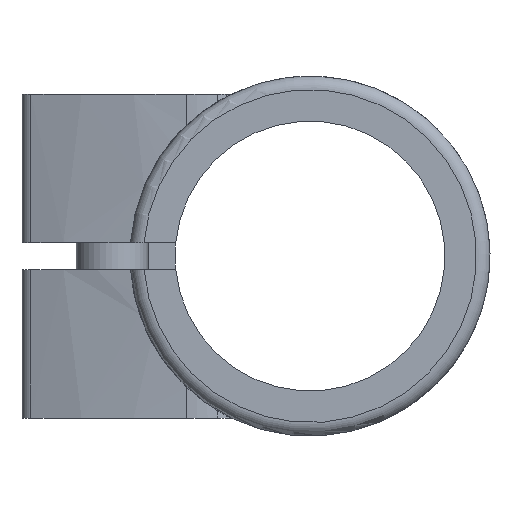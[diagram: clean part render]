
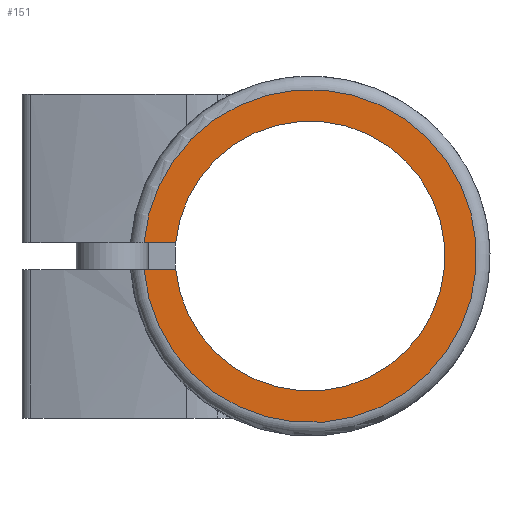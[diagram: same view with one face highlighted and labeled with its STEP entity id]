
A CAD part, left-side view. The second image highlights one B-rep face of the part: STEP entity #151.
In plain terms, the highlighted planar face has unit normal (-1, 0, 0).
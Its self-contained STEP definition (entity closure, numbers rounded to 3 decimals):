
#151 = ADVANCED_FACE( '', ( #411 ), #412, .F. );
#411 = FACE_OUTER_BOUND( '', #767, .T. );
#412 = PLANE( '', #768 );
#767 = EDGE_LOOP( '', ( #1644, #1645, #1646, #1647 ) );
#768 = AXIS2_PLACEMENT_3D( '', #1648, #1649, #1650 );
#1644 = ORIENTED_EDGE( '', *, *, #2591, .F. );
#1645 = ORIENTED_EDGE( '', *, *, #2546, .F. );
#1646 = ORIENTED_EDGE( '', *, *, #2593, .F. );
#1647 = ORIENTED_EDGE( '', *, *, #2556, .F. );
#1648 = CARTESIAN_POINT( '', ( 0., 0., 0. ) );
#1649 = DIRECTION( '', ( 1., 0., 0. ) );
#1650 = DIRECTION( '', ( 0., 0., -1. ) );
#2546 = EDGE_CURVE( '', #3180, #3181, #3182, .T. );
#2556 = EDGE_CURVE( '', #3195, #3197, #3198, .T. );
#2591 = EDGE_CURVE( '', #3181, #3195, #3260, .F. );
#2593 = EDGE_CURVE( '', #3197, #3180, #3262, .T. );
#3180 = VERTEX_POINT( '', #4335 );
#3181 = VERTEX_POINT( '', #4336 );
#3182 = LINE( '', #4337, #4338 );
#3195 = VERTEX_POINT( '', #4368 );
#3197 = VERTEX_POINT( '', #4371 );
#3198 = LINE( '', #4372, #4373 );
#3260 = CIRCLE( '', #4577, 15. );
#3262 = CIRCLE( '', #4579, 18.5 );
#4335 = CARTESIAN_POINT( '', ( 0., 18.439, -1.5 ) );
#4336 = CARTESIAN_POINT( '', ( 0., 14.925, -1.5 ) );
#4337 = CARTESIAN_POINT( '', ( 0., 0., -1.5 ) );
#4338 = VECTOR( '', #5280, 1000. );
#4368 = CARTESIAN_POINT( '', ( 0., 14.925, 1.5 ) );
#4371 = CARTESIAN_POINT( '', ( 0., 18.439, 1.5 ) );
#4372 = CARTESIAN_POINT( '', ( 0., 0., 1.5 ) );
#4373 = VECTOR( '', #5295, 1000. );
#4577 = AXIS2_PLACEMENT_3D( '', #5343, #5344, #5345 );
#4579 = AXIS2_PLACEMENT_3D( '', #5349, #5350, #5351 );
#5280 = DIRECTION( '', ( 0., -1., 0. ) );
#5295 = DIRECTION( '', ( 0., 1., 0. ) );
#5343 = CARTESIAN_POINT( '', ( 0., 0., 0. ) );
#5344 = DIRECTION( '', ( 1., 0., 0. ) );
#5345 = DIRECTION( '', ( 0., 0., -1. ) );
#5349 = CARTESIAN_POINT( '', ( 0., 0., 0. ) );
#5350 = DIRECTION( '', ( 1., 0., 0. ) );
#5351 = DIRECTION( '', ( 0., 0., -1. ) );
